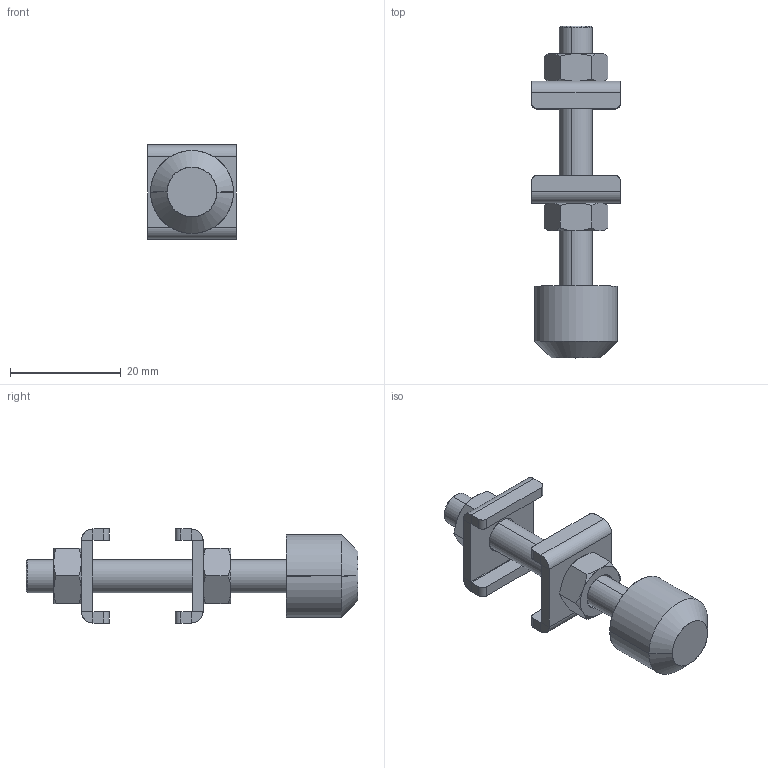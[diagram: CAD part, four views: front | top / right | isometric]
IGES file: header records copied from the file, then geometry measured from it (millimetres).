
Start section: SolidWorks IGES file using analytic representation for surfaces
Global section: file name: C:\Projetos\Ponteiras\BRP\BRP-M6.IGS; native system: SolidWorks 2011; preprocessor: SolidWorks 2011; author: Usuario; date: 110523.133700; units: millimetre
Bounding box: 16 x 60 x 17 mm (x, y, z)
Surface area: 4381.4 mm2 (no closed solid volume)
Topology: 0 solids, 0 shells, 126 faces, 1432 edges, 1430 vertices
Faces by surface type: revolution 70, bspline 56
